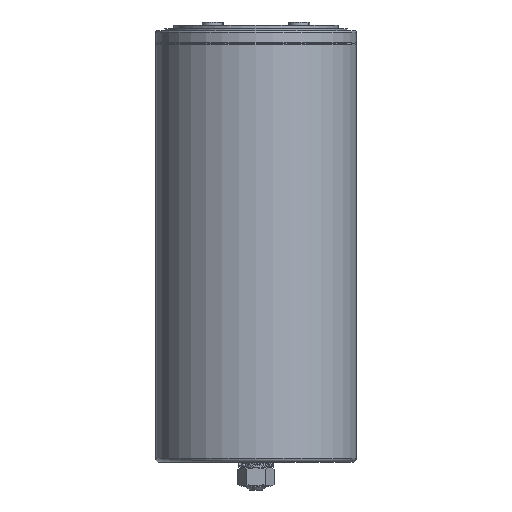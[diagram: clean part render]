
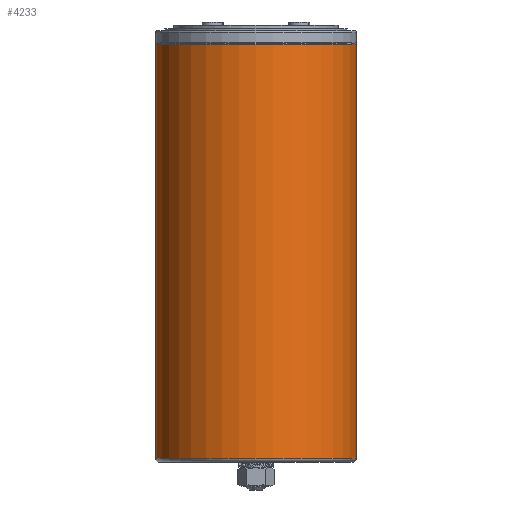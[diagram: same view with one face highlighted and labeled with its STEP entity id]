
A CAD part, front view. The second image highlights one B-rep face of the part: STEP entity #4233.
In plain terms, the highlighted cylindrical face has radius 58 mm (diameter 116 mm), a partial arc.
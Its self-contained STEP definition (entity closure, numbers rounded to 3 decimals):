
#108 = CARTESIAN_POINT ( 'NONE',  ( -73.5, 0., 220.217 ) ) ;
#506 = DIRECTION ( 'NONE',  ( -1., 0., 0. ) ) ;
#668 = CARTESIAN_POINT ( 'NONE',  ( -73.5, 0., 151.967 ) ) ;
#728 = LINE ( 'NONE', #3305, #5877 ) ;
#1052 = DIRECTION ( 'NONE',  ( -1., 0., 0. ) ) ;
#1058 = VERTEX_POINT ( 'NONE', #8371 ) ;
#1300 = LINE ( 'NONE', #668, #6449 ) ;
#1316 = DIRECTION ( 'NONE',  ( 0., 0., -1. ) ) ;
#1317 = DIRECTION ( 'NONE',  ( 0., 0., -1. ) ) ;
#1463 = CYLINDRICAL_SURFACE ( 'NONE', #6638, 58. ) ;
#1547 = CARTESIAN_POINT ( 'NONE',  ( 42.5, 0., -18.854 ) ) ;
#1833 = VERTEX_POINT ( 'NONE', #1547 ) ;
#1888 = VERTEX_POINT ( 'NONE', #108 ) ;
#2364 = CARTESIAN_POINT ( 'NONE',  ( -73.5, 0., -18.854 ) ) ;
#2388 = DIRECTION ( 'NONE',  ( 0., 0., -1. ) ) ;
#2674 = ORIENTED_EDGE ( 'NONE', *, *, #8580, .T. ) ;
#2861 = EDGE_CURVE ( 'NONE', #1058, #1833, #728, .T. ) ;
#2900 = EDGE_LOOP ( 'NONE', ( #4170, #2674, #7258, #8386 ) ) ;
#3000 = CARTESIAN_POINT ( 'NONE',  ( -15.5, 0., -18.854 ) ) ;
#3032 = FACE_OUTER_BOUND ( 'NONE', #2900, .T. ) ;
#3305 = CARTESIAN_POINT ( 'NONE',  ( 42.5, 0., 151.967 ) ) ;
#4170 = ORIENTED_EDGE ( 'NONE', *, *, #2861, .F. ) ;
#4233 = ADVANCED_FACE ( 'NONE', ( #3032 ), #1463, .T. ) ;
#4913 = DIRECTION ( 'NONE',  ( -1., 0., 0. ) ) ;
#5877 = VECTOR ( 'NONE', #1316, 1000. ) ;
#5982 = EDGE_CURVE ( 'NONE', #1833, #6475, #8813, .T. ) ;
#6128 = AXIS2_PLACEMENT_3D ( 'NONE', #3000, #7697, #4913 ) ;
#6423 = CARTESIAN_POINT ( 'NONE',  ( -15.5, 0., 151.967 ) ) ;
#6449 = VECTOR ( 'NONE', #1317, 1000. ) ;
#6475 = VERTEX_POINT ( 'NONE', #2364 ) ;
#6638 = AXIS2_PLACEMENT_3D ( 'NONE', #6423, #2388, #1052 ) ;
#6708 = EDGE_CURVE ( 'NONE', #1888, #6475, #1300, .T. ) ;
#7258 = ORIENTED_EDGE ( 'NONE', *, *, #6708, .T. ) ;
#7282 = CIRCLE ( 'NONE', #7318, 58. ) ;
#7318 = AXIS2_PLACEMENT_3D ( 'NONE', #8051, #7955, #506 ) ;
#7697 = DIRECTION ( 'NONE',  ( 0., 0., -1. ) ) ;
#7955 = DIRECTION ( 'NONE',  ( 0., 0., -1. ) ) ;
#8051 = CARTESIAN_POINT ( 'NONE',  ( -15.5, 0., 220.217 ) ) ;
#8371 = CARTESIAN_POINT ( 'NONE',  ( 42.5, 0., 220.217 ) ) ;
#8386 = ORIENTED_EDGE ( 'NONE', *, *, #5982, .F. ) ;
#8580 = EDGE_CURVE ( 'NONE', #1058, #1888, #7282, .T. ) ;
#8813 = CIRCLE ( 'NONE', #6128, 58. ) ;
